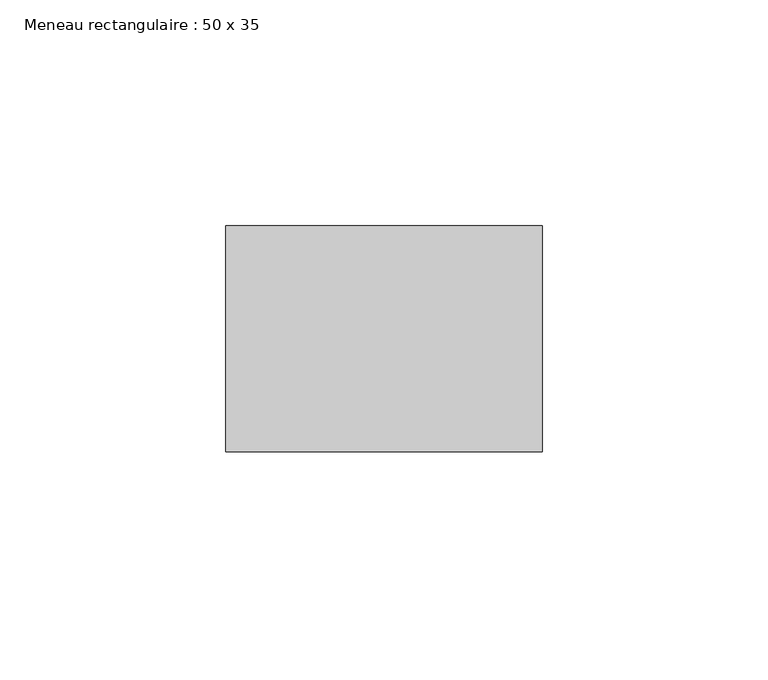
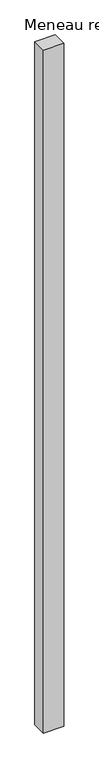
"""IFC4 building model written with IfcOpenShell, lengths in millimetres: member geometry, Meneau rectangulaire : 50 x 35."""

from ifc_helpers import new_model, si_unit, frame, origin, place, context, project, spatial, polyline, outline, extrude, source, transform, mapped, element, save


def meneau_rectangulaire_50_x_35_ff2d0954(model_context):
    return source(origin(), model_context, "Body", "SweptSolid", [
        extrude(outline(polyline([(0.0, 0.0), (0.0, -50.0), (-70.0, -50.0), (-70.0, 0.0), (0.0, 0.0)])), frame((0.0, 0.0, -2463.5093021), z_axis=(0.0, 0.0, 1.0), x_axis=(1.0, 0.0, 0.0)), (0.0, 0.0, 1.0), 2463.5093021),
    ])


if __name__ == "__main__":
    model = new_model("IFC4")
    model_context = context("Model", 3, world=origin())
    ifc_project = project(units=[si_unit("LENGTHUNIT", "METRE", prefix="MILLI")], contexts=[model_context])
    site = spatial("IfcSite", under=ifc_project)
    building = spatial("IfcBuilding", under=site)
    placement = place(None, origin())
    meneau_rectangulaire_50_x_35_shape = meneau_rectangulaire_50_x_35_ff2d0954(model_context)
    element("IfcMember", 1, ObjectType="Meneau rectangulaire : 50 x 35", at=placement, inside=building, context=model_context, shape_type="MappedRepresentation", body=[
        mapped(meneau_rectangulaire_50_x_35_shape, transform((0.0, 0.0, 0.0), x_axis=(1.0, 0.0, 0.0), y_axis=(0.0, 1.0, 0.0), z_axis=(0.0, 0.0, 1.0))),
    ])
    save(model, "model.ifc")
